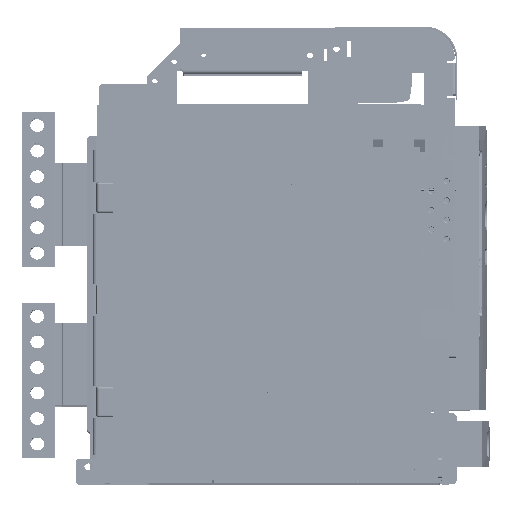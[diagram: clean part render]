
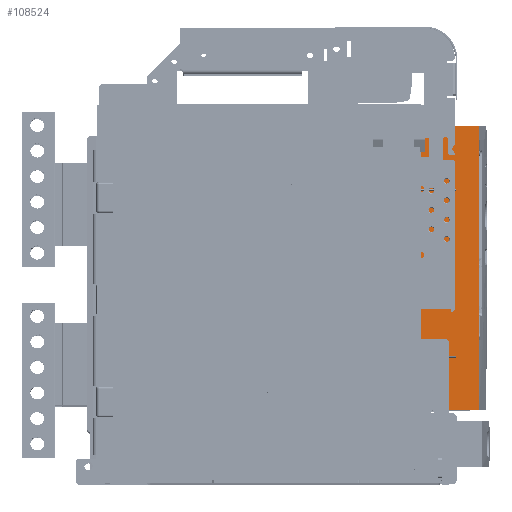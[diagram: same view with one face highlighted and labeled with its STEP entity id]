
A CAD part, top view. The second image highlights one B-rep face of the part: STEP entity #108524.
In plain terms, the highlighted planar face has unit normal (0.009, 0, 1).
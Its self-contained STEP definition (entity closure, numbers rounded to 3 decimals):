
#26605 = DIRECTION ( 'NONE',  ( 0., 1., 0. ) ) ;
#47865 = DIRECTION ( 'NONE',  ( 0., 1., 0. ) ) ;
#53273 = CARTESIAN_POINT ( 'NONE',  ( -135.702, 334.217, 154.496 ) ) ;
#54819 = ORIENTED_EDGE ( 'NONE', *, *, #223248, .F. ) ;
#56588 = ORIENTED_EDGE ( 'NONE', *, *, #67342, .T. ) ;
#63136 = VECTOR ( 'NONE', #127804, 1000. ) ;
#67342 = EDGE_CURVE ( 'NONE', #320592, #235771, #185671, .T. ) ;
#77957 = EDGE_LOOP ( 'NONE', ( #300307, #244836, #54819, #56588 ) ) ;
#82339 = CARTESIAN_POINT ( 'NONE',  ( -13.503, 333.151, 153.43 ) ) ;
#85716 = DIRECTION ( 'NONE',  ( -1., -0.009, 0.009 ) ) ;
#108524 = ADVANCED_FACE ( 'NONE', ( #228483 ), #298679, .T. ) ;
#112637 = VECTOR ( 'NONE', #85716, 1000. ) ;
#127804 = DIRECTION ( 'NONE',  ( -1., 0.009, 0.009 ) ) ;
#136344 = CARTESIAN_POINT ( 'NONE',  ( -70.153, 333.645, 153.924 ) ) ;
#176082 = LINE ( 'NONE', #53273, #63136 ) ;
#179280 = AXIS2_PLACEMENT_3D ( 'NONE', #305383, #228917, #47865 ) ;
#181219 = LINE ( 'NONE', #215074, #112637 ) ;
#185671 = LINE ( 'NONE', #290393, #302281 ) ;
#191587 = DIRECTION ( 'NONE',  ( 0., 1., 0. ) ) ;
#215074 = CARTESIAN_POINT ( 'NONE',  ( -136.87, 53.95, 154.507 ) ) ;
#223248 = EDGE_CURVE ( 'NONE', #320592, #311497, #181219, .T. ) ;
#225840 = VECTOR ( 'NONE', #26605, 1000. ) ;
#228483 = FACE_OUTER_BOUND ( 'NONE', #77957, .T. ) ;
#228917 = DIRECTION ( 'NONE',  ( 0.009, 0., 1. ) ) ;
#235771 = VERTEX_POINT ( 'NONE', #82339 ) ;
#244349 = EDGE_CURVE ( 'NONE', #311497, #312975, #290311, .T. ) ;
#244836 = ORIENTED_EDGE ( 'NONE', *, *, #244349, .F. ) ;
#281517 = EDGE_CURVE ( 'NONE', #235771, #312975, #176082, .T. ) ;
#283040 = CARTESIAN_POINT ( 'NONE',  ( -70.153, 53.439, 153.924 ) ) ;
#290311 = LINE ( 'NONE', #283040, #225840 ) ;
#290393 = CARTESIAN_POINT ( 'NONE',  ( -13.503, 53.439, 153.43 ) ) ;
#298679 = PLANE ( 'NONE',  #179280 ) ;
#300307 = ORIENTED_EDGE ( 'NONE', *, *, #281517, .T. ) ;
#302281 = VECTOR ( 'NONE', #191587, 1000. ) ;
#305383 = CARTESIAN_POINT ( 'NONE',  ( -138.153, 53.439, 154.518 ) ) ;
#311497 = VERTEX_POINT ( 'NONE', #329463 ) ;
#312975 = VERTEX_POINT ( 'NONE', #136344 ) ;
#319368 = CARTESIAN_POINT ( 'NONE',  ( -13.503, 55.027, 153.43 ) ) ;
#320592 = VERTEX_POINT ( 'NONE', #319368 ) ;
#329463 = CARTESIAN_POINT ( 'NONE',  ( -70.153, 54.532, 153.924 ) ) ;
